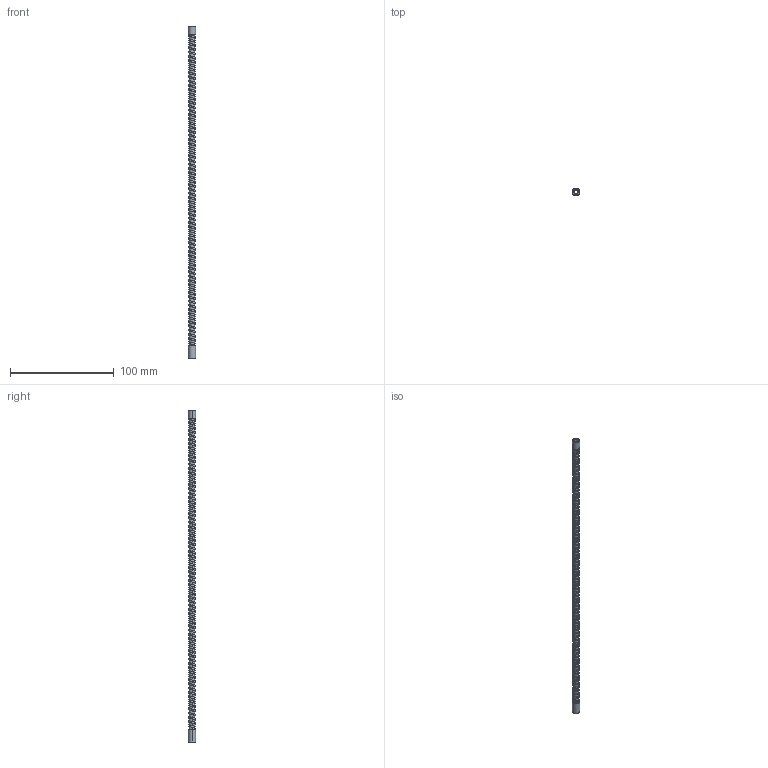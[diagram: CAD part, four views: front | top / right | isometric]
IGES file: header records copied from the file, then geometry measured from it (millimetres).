
Start section: SolidWorks IGES file using analytic representation for surfaces
Bounding box: 7 x 7 x 320 mm (x, y, z)
Surface area: 10420.8 mm2 (no closed solid volume)
Topology: 0 solids, 0 shells, 299 faces, 8525 edges, 8525 vertices
Faces by surface type: revolution 286, bspline 13
